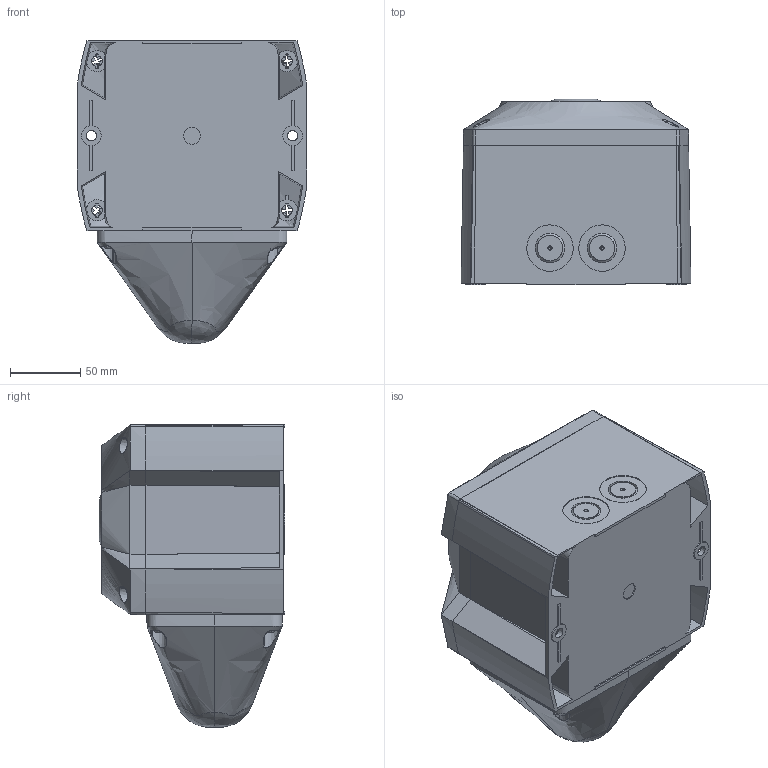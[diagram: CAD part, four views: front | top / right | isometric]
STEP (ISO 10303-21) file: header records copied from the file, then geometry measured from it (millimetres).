
FILE_DESCRIPTION (( 'STEP AP214' ), '1' );
FILE_NAME ('PAX5_30304-100.STEP', '2012-01-10T10:05:44', ( ' ' ), ( ' ' ), 'SwSTEP 2.0', 'SolidWorks 2011', '' );
FILE_SCHEMA (( 'AUTOMOTIVE_DESIGN' ));
Length unit declared in the file: millimetre
Products named in the file (1): PAX5_30304-100
Bounding box: 163.42 x 132 x 215 mm (x, y, z)
Surface area: 206724.3 mm2 (no closed solid volume)
Topology: 0 solids, 38 shells, 284 faces, 1229 edges, 971 vertices
Faces by surface type: plane 156, cone 58, bspline 48, cylinder 15, torus 6, sphere 1
Full cylindrical faces by diameter (mm): 5.6 x1, 9 x2, 18 x2
Entity records: 29319 total; most frequent: CARTESIAN_POINT 17166, ORIENTED_EDGE 1660, DIRECTION 1608, EDGE_CURVE 1184, VERTEX_POINT 956, LINE 574, VECTOR 574, AXIS2_PLACEMENT_3D 517
